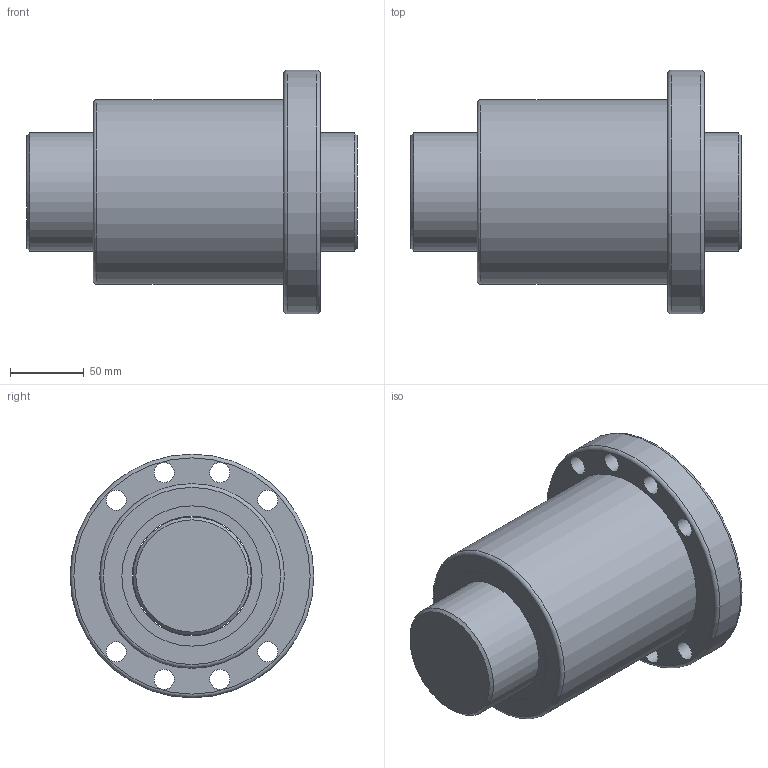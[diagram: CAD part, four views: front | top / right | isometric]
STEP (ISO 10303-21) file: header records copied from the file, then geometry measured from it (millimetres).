
FILE_DESCRIPTION(/* description */ (''),/* implementation_level */ '2;1');
FILE_NAME(/* name */ 'SFU8020',/* time_stamp */ '2007-10-26T13:34:25+08:00',/* author */ (''),/* organization */ (''),/* preprocessor_version */ 'ST-DEVELOPER v9',/* originating_system */ 'EDS PLM SOLUTIONS - UNIGRAPHICS NX 1.0',/* authorisation */ '');
FILE_SCHEMA (('CONFIG_CONTROL_DESIGN'));
Length unit declared in the file: millimetre
Products named in the file (1): FANNDA0400il
Bounding box: 224 x 165 x 165 mm (x, y, z)
Volume: 2418495.6 mm3; surface area: 225344.4 mm2
Topology: 4 solids, 4 shells, 34 faces, 64 edges, 41 vertices
Faces by surface type: cylinder 18, plane 11, torus 3, cone 2
Full cylindrical faces by diameter (mm): 13.5 x8, 80 x1, 81 x3, 95 x4, 125 x1, 165 x1
Entity records: 878 total; most frequent: DIRECTION 152, CARTESIAN_POINT 117, EDGE_LOOP 82, ORIENTED_EDGE 82, AXIS2_PLACEMENT_3D 76, FACE_BOUND 69, VERTEX_POINT 41, EDGE_CURVE 41
